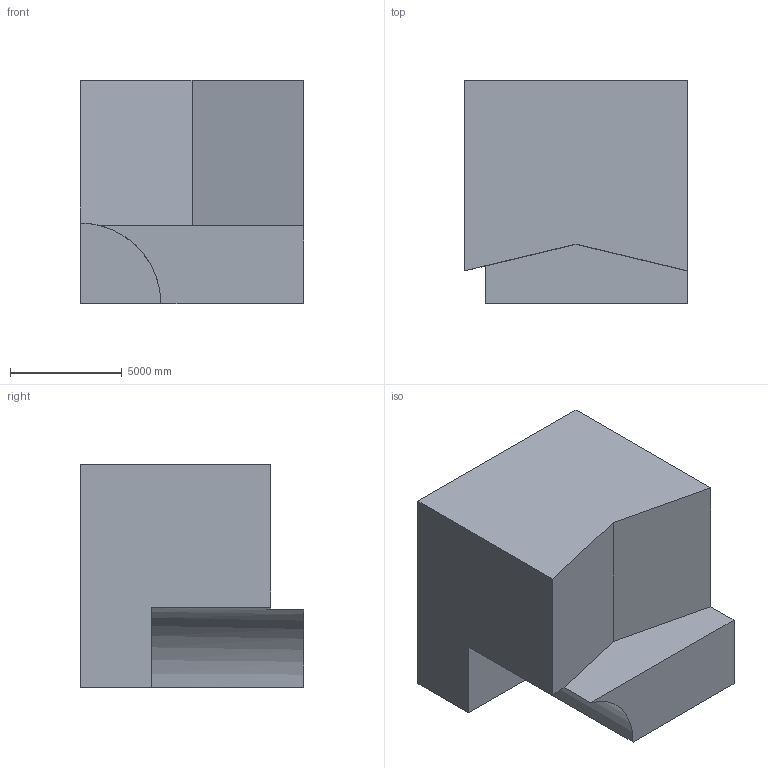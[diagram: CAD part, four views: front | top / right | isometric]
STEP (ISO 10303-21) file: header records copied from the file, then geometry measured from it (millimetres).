
FILE_DESCRIPTION (( 'STEP AP203' ), '1' );
FILE_NAME ('1101.STEP', '2022-08-18T12:45:59', ( 'user' ), ( '' ), 'SwSTEP 2.0', 'SolidWorks 2021', '' );
FILE_SCHEMA (( 'CONFIG_CONTROL_DESIGN' ));
Length unit declared in the file: centimetre
Products named in the file (1): 1101
Bounding box: 10000 x 10000 x 10000 mm (x, y, z)
Volume: 796280657775.6 mm3; surface area: 569377718.1 mm2
Topology: 1 solids, 1 shells, 11 faces, 27 edges, 18 vertices
Faces by surface type: plane 10, cylinder 1
Entity records: 400 total; most frequent: CARTESIAN_POINT 60, ORIENTED_EDGE 54, DIRECTION 52, EDGE_CURVE 27, VECTOR 24, LINE 24, VERTEX_POINT 18, AXIS2_PLACEMENT_3D 14
